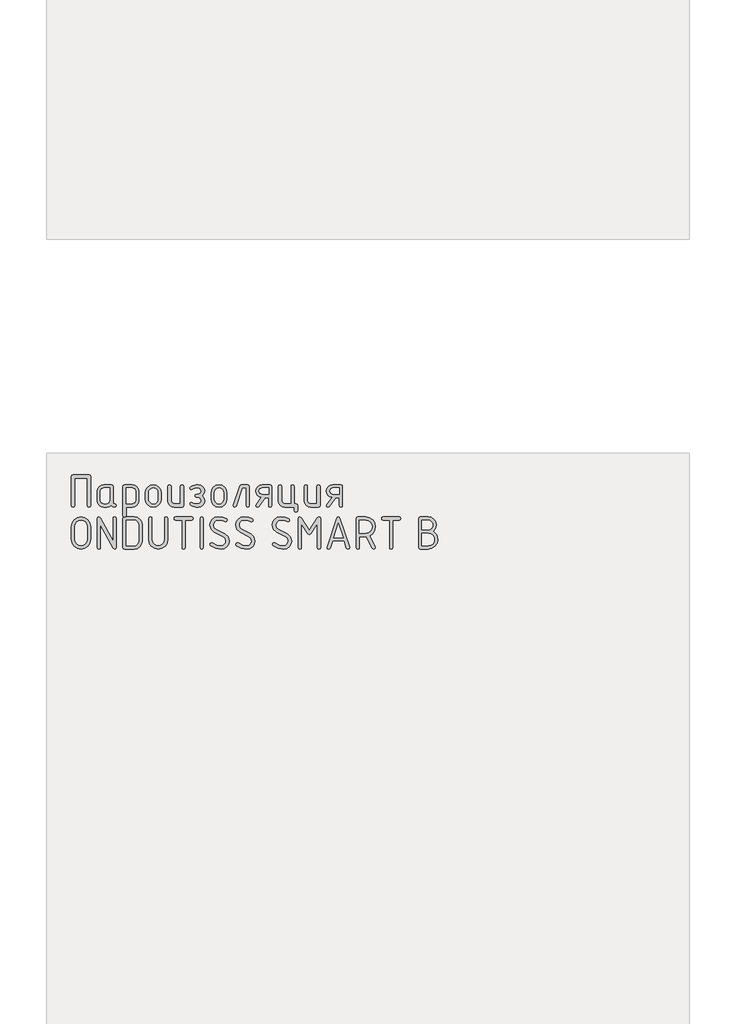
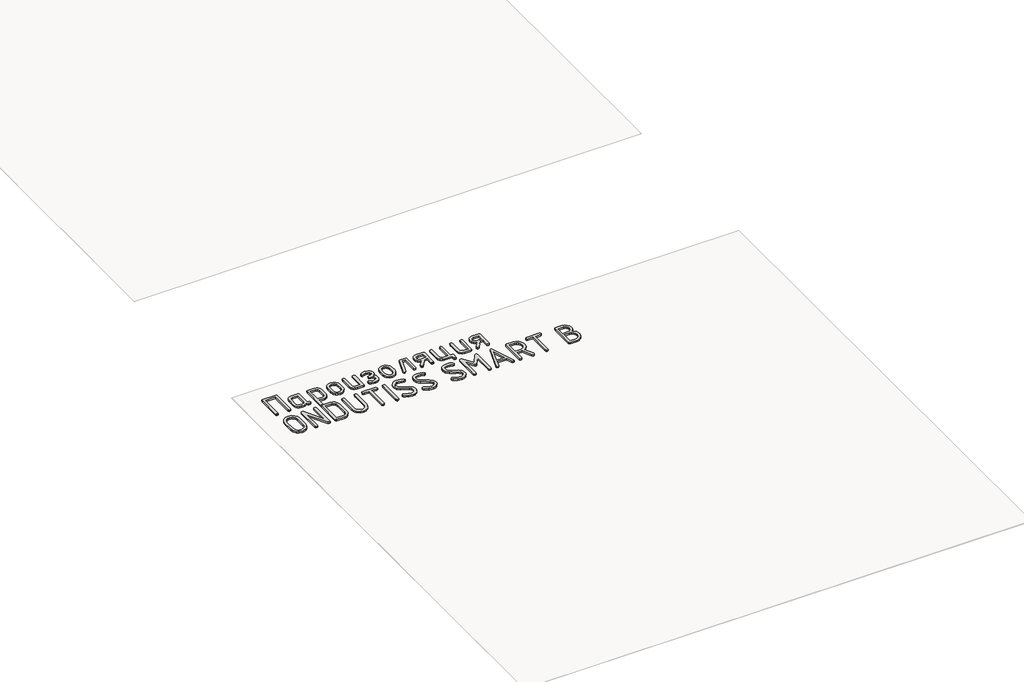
# One storey, part 11 of 42: 1 proxy.
"""IFC4 building model written with IfcOpenShell, lengths in millimetres."""

from ifc_helpers import new_model, si_unit, origin, origin_with_axes, place, context, project, spatial, polyline, outline, extrude, element, save

model = new_model("IFC4")

# Units and contexts
model_context = context("Model", 3, world=origin())
ifc_project = project(units=[si_unit("LENGTHUNIT", "METRE", prefix="MILLI")], contexts=[model_context])

# Site, building, storey
site = spatial("IfcSite", under=ifc_project)
building = spatial("IfcBuilding", under=site)
storey = spatial("IfcBuildingStorey", under=building, Name="Этаж 01", Elevation=0.0)

# Proxy
placement = place(None, origin())
element("IfcBuildingElementProxy", 1, Name="150 мм GOST Common", ObjectType="150 мм GOST Common", at=placement, inside=storey, context=model_context, shape_type="SweptSolid", body=[
    extrude(outline(polyline([(-17013.0545046, -34675.913887), (-16938.5048151, -34675.913887), (-16932.9016029, -34677.8016002), (-16931.0338655, -34683.4647398), (-16931.0338655, -34819.2202837), (-16932.9515424, -34824.8834233), (-16938.7045731, -34826.7711365), (-16944.4576038, -34824.8934112), (-16946.3752807, -34819.2602353), (-16946.3752807, -34691.2553022), (-17005.184039, -34691.2553022), (-17005.184039, -34819.2602353), (-17007.1017159, -34824.8934112), (-17012.8547466, -34826.7711365), (-17018.6077773, -34824.8834233), (-17020.5254542, -34819.2202837), (-17020.5254542, -34683.4647398), (-17018.6577168, -34677.8016002), (-17013.0545046, -34675.913887)])), origin_with_axes(), (0.0, 0.0, 1.0), 10.0),
    extrude(outline(polyline([(-16811.2190109, -34819.3001869), (-16813.0867483, -34824.9033991), (-16818.6899605, -34826.7711365), (-16828.1684781, -34824.7835443), (-16835.7492945, -34818.8207677), (-16844.8682477, -34824.7835443), (-16855.8449504, -34826.7711365), (-16870.7069464, -34826.7711365), (-16882.2030199, -34824.6037621), (-16891.7614407, -34818.1016388), (-16898.2036365, -34808.443339), (-16900.3510351, -34796.8074349), (-16900.3510351, -34751.9018342), (-16898.2036365, -34740.2659301), (-16891.7614407, -34730.6076303), (-16882.2030199, -34724.105507), (-16870.7069464, -34721.9381326), (-16833.6318596, -34721.9381326), (-16828.0586111, -34723.80587), (-16826.2008617, -34729.4090822), (-16826.2008617, -34804.3183361), (-16824.3281303, -34809.9215483), (-16818.7099363, -34811.7892857), (-16813.0917422, -34813.667011), (-16811.2190109, -34819.3001869)]), holes=[polyline([(-16841.5422768, -34737.2795478), (-16870.5071884, -34737.2795478), (-16880.7747501, -34741.6142966), (-16885.0096199, -34752.1015922), (-16885.0096199, -34796.6076769), (-16880.7347985, -34807.0550209), (-16870.5071884, -34811.4297213), (-16856.0447084, -34811.4297213), (-16845.7771467, -34807.0949725), (-16841.5422768, -34796.6076769), (-16841.5422768, -34737.2795478)])]), origin_with_axes(), (0.0, 0.0, 1.0), 10.0),
    extrude(outline(polyline([(-16780.1766161, -34729.4889854), (-16778.3188666, -34723.8258458), (-16772.7456181, -34721.9381326), (-16735.6705313, -34721.9381326), (-16724.1744578, -34724.105507), (-16714.6160371, -34730.6076303), (-16708.1738412, -34740.2659301), (-16706.0264426, -34751.9018342), (-16706.0264426, -34796.8074349), (-16708.1588594, -34808.3684298), (-16714.5561096, -34818.0417114), (-16724.0396212, -34824.5887802), (-16735.4308217, -34826.7711365), (-16764.8352009, -34826.7711365), (-16764.8352009, -34865.1246745), (-16766.7528778, -34870.8777052), (-16772.5059085, -34872.7953821), (-16778.2589392, -34870.9076689), (-16780.1766161, -34865.2445293), (-16780.1766161, -34729.4889854)]), holes=[polyline([(-16764.8352009, -34737.2795478), (-16764.8352009, -34811.4297213), (-16735.8702894, -34811.4297213), (-16725.6027276, -34807.0949725), (-16721.3678578, -34796.6076769), (-16721.3678578, -34752.1015922), (-16725.5428002, -34741.5543692), (-16735.8702894, -34737.2795478), (-16764.8352009, -34737.2795478)])]), origin_with_axes(), (0.0, 0.0, 1.0), 10.0),
    extrude(outline(polyline([(-16675.3436122, -34789.3364853), (-16675.3436122, -34759.3727838), (-16672.6318972, -34744.9802191), (-16664.4967522, -34732.8848716), (-16652.5162656, -34724.6748174), (-16638.2685255, -34721.9381326), (-16623.8709669, -34724.6448537), (-16611.9204439, -34732.7650168), (-16603.87519, -34744.8304006), (-16601.1934388, -34759.3727838), (-16601.1934388, -34789.3364853), (-16603.9051537, -34803.72905), (-16612.0402987, -34815.8243975), (-16624.0207854, -34824.0344517), (-16638.2685255, -34826.7711365), (-16652.5162656, -34824.0344517), (-16664.4967522, -34815.8243975), (-16672.6318972, -34803.72905), (-16675.3436122, -34789.3364853)]), holes=[polyline([(-16616.534854, -34788.8970177), (-16616.534854, -34758.8933645), (-16618.1279241, -34750.2638185), (-16622.9071345, -34742.9926269), (-16629.9336225, -34738.0486162), (-16638.2685255, -34736.4006126), (-16646.6034285, -34738.0486162), (-16653.6299165, -34742.9926269), (-16658.4091269, -34750.2638185), (-16660.002197, -34758.8933645), (-16660.002197, -34788.8970177), (-16658.4241087, -34797.606467), (-16653.6898439, -34804.8776585), (-16646.6783377, -34809.7917056), (-16638.2685255, -34811.4297213), (-16629.9336225, -34809.7817177), (-16622.9071345, -34804.8377069), (-16618.1279241, -34797.5565275), (-16616.534854, -34788.8970177)])]), origin_with_axes(), (0.0, 0.0, 1.0), 10.0),
    extrude(outline(polyline([(-16496.3604349, -34729.4090822), (-16496.3604349, -34819.3001869), (-16498.2181844, -34824.9033991), (-16503.7914329, -34826.7711365), (-16540.8665196, -34826.7711365), (-16552.3625931, -34824.6037621), (-16561.9210139, -34818.1016388), (-16568.3632097, -34808.443339), (-16570.5106084, -34796.8074349), (-16570.5106084, -34729.4090822), (-16568.5929315, -34723.80587), (-16562.8399008, -34721.9381326), (-16557.0868701, -34723.80587), (-16555.1691932, -34729.4090822), (-16555.1691932, -34796.5277737), (-16550.8943717, -34807.0150692), (-16540.6667616, -34811.4297213), (-16511.7018501, -34811.4297213), (-16511.7018501, -34729.4090822), (-16509.7841732, -34723.80587), (-16504.0311425, -34721.9381326), (-16498.2781118, -34723.80587), (-16496.3604349, -34729.4090822)])), origin_with_axes(), (0.0, 0.0, 1.0), 10.0),
    extrude(outline(polyline([(-16414.5395539, -34796.0483545), (-16418.5347141, -34784.7020995), (-16427.4039697, -34780.7468909), (-16437.0722574, -34780.7468909), (-16442.3858205, -34778.5495528), (-16444.543207, -34773.1161349), (-16442.3258931, -34767.6627412), (-16434.9148709, -34765.4054757), (-16432.6376296, -34765.4054757), (-16430.2405335, -34765.4054757), (-16418.5746657, -34761.3503881), (-16414.5395539, -34751.3425118), (-16418.8743027, -34741.3346354), (-16429.5613562, -34737.2795478), (-16437.0722574, -34737.2795478), (-16452.4536242, -34741.0949258), (-16461.3628315, -34744.9103038), (-16465.3579917, -34742.1736191), (-16467.0759106, -34736.9199834), (-16463.9996372, -34731.1769406), (-16454.7708171, -34726.013196), (-16437.0722574, -34721.9381326), (-16429.5613562, -34721.9381326), (-16417.8755126, -34724.0555675), (-16408.0673943, -34730.4078723), (-16401.4154526, -34739.8264625), (-16399.1981387, -34751.1427537), (-16401.8449323, -34764.4366493), (-16409.7853132, -34773.0761833), (-16401.8449323, -34782.2650518), (-16399.1981387, -34796.0883061), (-16401.4154526, -34807.9888895), (-16408.0673943, -34817.881905), (-16417.8755126, -34824.5488286), (-16429.5613562, -34826.7711365), (-16437.0722574, -34826.7711365), (-16454.8906719, -34822.8159279), (-16464.0296009, -34817.7420744), (-16467.0759106, -34811.7892857), (-16465.3579917, -34806.5156742), (-16461.2429767, -34803.7989653), (-16452.1140356, -34807.6143433), (-16437.0722574, -34811.4297213), (-16429.5613562, -34811.4297213), (-16418.9142543, -34806.935166), (-16414.5395539, -34796.0483545)])), origin_with_axes(), (0.0, 0.0, 1.0), 10.0),
    extrude(outline(polyline([(-16368.5153083, -34789.3364853), (-16368.5153083, -34759.3727838), (-16365.8035933, -34744.9802191), (-16357.6684483, -34732.8848716), (-16345.6879616, -34724.6748174), (-16331.4402215, -34721.9381326), (-16317.0426629, -34724.6448537), (-16305.09214, -34732.7650168), (-16297.0468861, -34744.8304006), (-16294.3651348, -34759.3727838), (-16294.3651348, -34789.3364853), (-16297.0768498, -34803.72905), (-16305.2119948, -34815.8243975), (-16317.1924814, -34824.0344517), (-16331.4402215, -34826.7711365), (-16345.6879616, -34824.0344517), (-16357.6684483, -34815.8243975), (-16365.8035933, -34803.72905), (-16368.5153083, -34789.3364853)]), holes=[polyline([(-16309.70655, -34788.8970177), (-16309.70655, -34758.8933645), (-16311.2996201, -34750.2638185), (-16316.0788305, -34742.9926269), (-16323.1053185, -34738.0486162), (-16331.4402215, -34736.4006126), (-16339.7751245, -34738.0486162), (-16346.8016125, -34742.9926269), (-16351.5808229, -34750.2638185), (-16353.1738931, -34758.8933645), (-16353.1738931, -34788.8970177), (-16351.5958048, -34797.606467), (-16346.8615399, -34804.8776585), (-16339.8500338, -34809.7917056), (-16331.4402215, -34811.4297213), (-16323.1053185, -34809.7817177), (-16316.0788305, -34804.8377069), (-16311.2996201, -34797.5565275), (-16309.70655, -34788.8970177)])]), origin_with_axes(), (0.0, 0.0, 1.0), 10.0),
    extrude(outline(polyline([(-16227.3662981, -34721.9381326), (-16197.2028386, -34721.9381326), (-16191.4498079, -34723.80587), (-16189.532131, -34729.4090822), (-16189.532131, -34819.3001869), (-16191.4498079, -34824.9033991), (-16197.2028386, -34826.7711365), (-16202.9558693, -34824.9033991), (-16204.8735462, -34819.3001869), (-16204.8735462, -34737.2795478), (-16222.0127834, -34737.2795478), (-16250.2985177, -34821.697283), (-16257.3699513, -34826.7711365), (-16263.0031272, -34824.8734354), (-16264.8808525, -34819.1803321), (-16264.5212881, -34816.9030908), (-16234.8771993, -34728.0507277), (-16231.9607324, -34723.4662814), (-16227.3662981, -34721.9381326)])), origin_with_axes(), (0.0, 0.0, 1.0), 10.0),
    extrude(outline(polyline([(-16133.3202268, -34781.6258261), (-16143.9024074, -34778.5046072), (-16152.47702, -34771.8576594), (-16158.1551415, -34762.663797), (-16160.0478486, -34751.9018342), (-16157.8704863, -34740.2659301), (-16151.3383994, -34730.6076303), (-16141.6601238, -34724.105507), (-16130.0441955, -34721.9381326), (-16092.3698347, -34721.9381326), (-16086.616804, -34723.80587), (-16084.6991271, -34729.4090822), (-16084.6991271, -34819.3001869), (-16086.616804, -34824.9033991), (-16092.3698347, -34826.7711365), (-16098.1228654, -34824.8934112), (-16100.0405423, -34819.2602353), (-16100.0405423, -34781.7856325), (-16115.2621027, -34781.7856325), (-16146.5042555, -34823.6948631), (-16152.5369474, -34826.7711365), (-16158.1701233, -34824.9033991), (-16160.0478486, -34819.3001869), (-16158.5696393, -34814.7457043), (-16133.3202268, -34781.6258261)]), holes=[polyline([(-16145.0260462, -34752.3013502), (-16140.5914184, -34762.8485732), (-16130.0441955, -34767.283201), (-16100.0405423, -34767.283201), (-16100.0405423, -34737.2795478), (-16130.0441955, -34737.2795478), (-16140.6513458, -34741.6542483), (-16145.0260462, -34752.3013502)])]), origin_with_axes(), (0.0, 0.0, 1.0), 10.0),
    extrude(outline(polyline([(-15972.1954157, -34811.4297213), (-15966.442385, -34813.3473982), (-15964.5247081, -34819.1004289), (-15964.5247081, -34842.1125517), (-15966.442385, -34847.8655824), (-15972.1954157, -34849.7832593), (-15977.9484464, -34847.8655824), (-15979.8661233, -34842.1125517), (-15979.8661233, -34826.7711365), (-16024.372208, -34826.7711365), (-16035.8682815, -34824.5887802), (-16045.4267023, -34818.0417114), (-16051.8688981, -34808.3684298), (-16054.0162967, -34796.8074349), (-16054.0162967, -34729.4090822), (-16052.0986198, -34723.80587), (-16046.3455891, -34721.9381326), (-16040.5925584, -34723.80587), (-16038.6748815, -34729.4090822), (-16038.6748815, -34796.5277737), (-16034.4000601, -34807.0150692), (-16024.17245, -34811.4297213), (-15995.2075385, -34811.4297213), (-15995.2075385, -34729.4090822), (-15993.2898616, -34723.80587), (-15987.5368309, -34721.9381326), (-15981.7838002, -34723.80587), (-15979.8661233, -34729.4090822), (-15979.8661233, -34811.4297213), (-15972.1954157, -34811.4297213)])), origin_with_axes(), (0.0, 0.0, 1.0), 10.0),
    extrude(outline(polyline([(-15859.6917042, -34729.4090822), (-15859.6917042, -34819.3001869), (-15861.5494537, -34824.9033991), (-15867.1227022, -34826.7711365), (-15904.1977889, -34826.7711365), (-15915.6938624, -34824.6037621), (-15925.2522832, -34818.1016388), (-15931.6944791, -34808.443339), (-15933.8418777, -34796.8074349), (-15933.8418777, -34729.4090822), (-15931.9242008, -34723.80587), (-15926.1711701, -34721.9381326), (-15920.4181394, -34723.80587), (-15918.5004625, -34729.4090822), (-15918.5004625, -34796.5277737), (-15914.225641, -34807.0150692), (-15903.9980309, -34811.4297213), (-15875.0331194, -34811.4297213), (-15875.0331194, -34729.4090822), (-15873.1154425, -34723.80587), (-15867.3624118, -34721.9381326), (-15861.6093811, -34723.80587), (-15859.6917042, -34729.4090822)])), origin_with_axes(), (0.0, 0.0, 1.0), 10.0),
    extrude(outline(polyline([(-15803.4798001, -34781.6258261), (-15814.0619807, -34778.5046072), (-15822.6365933, -34771.8576594), (-15828.3147147, -34762.663797), (-15830.2074219, -34751.9018342), (-15828.0300596, -34740.2659301), (-15821.4979726, -34730.6076303), (-15811.819697, -34724.105507), (-15800.2037687, -34721.9381326), (-15762.529408, -34721.9381326), (-15756.7763773, -34723.80587), (-15754.8587004, -34729.4090822), (-15754.8587004, -34819.3001869), (-15756.7763773, -34824.9033991), (-15762.529408, -34826.7711365), (-15768.2824387, -34824.8934112), (-15770.2001156, -34819.2602353), (-15770.2001156, -34781.7856325), (-15785.4216759, -34781.7856325), (-15816.6638288, -34823.6948631), (-15822.6965207, -34826.7711365), (-15828.3296966, -34824.9033991), (-15830.2074219, -34819.3001869), (-15828.7292126, -34814.7457043), (-15803.4798001, -34781.6258261)]), holes=[polyline([(-15815.1856195, -34752.3013502), (-15810.7509917, -34762.8485732), (-15800.2037687, -34767.283201), (-15770.2001156, -34767.283201), (-15770.2001156, -34737.2795478), (-15800.2037687, -34737.2795478), (-15810.8109191, -34741.6542483), (-15815.1856195, -34752.3013502)])]), origin_with_axes(), (0.0, 0.0, 1.0), 10.0),
    extrude(outline(polyline([(-16931.0338655, -34977.5302169), (-16934.3098969, -34994.8991759), (-16944.137991, -35009.5314502), (-16958.6004709, -35019.4793991), (-16975.7796598, -35022.7953821), (-16992.9588487, -35019.4793991), (-17007.4213287, -35009.5314502), (-17017.2494228, -34994.8991759), (-17020.5254542, -34977.5302169), (-17020.5254542, -34917.2032978), (-17017.2494228, -34899.8343388), (-17007.4213287, -34885.2020645), (-16992.9588487, -34875.2541156), (-16975.7796598, -34871.9381326), (-16958.5255617, -34875.2391337), (-16944.0780636, -34885.1421371), (-16934.294915, -34899.7594295), (-16931.0338655, -34917.2032978), (-16931.0338655, -34977.5302169)]), holes=[polyline([(-16946.3752807, -34977.4103621), (-16946.3752807, -34917.3231526), (-16948.5076975, -34905.6772606), (-16954.9049477, -34895.9889971), (-16964.3884593, -34889.4569101), (-16975.7796598, -34887.2795478), (-16987.1708604, -34889.4569101), (-16996.6543719, -34895.9889971), (-17003.0516222, -34905.6772606), (-17005.184039, -34917.3231526), (-17005.184039, -34977.4103621), (-17003.0516222, -34989.0562541), (-16996.6543719, -34998.7445176), (-16987.1708604, -35005.2766046), (-16975.7796598, -35007.4539669), (-16964.3884593, -35005.2766046), (-16954.9049477, -34998.7445176), (-16948.5076975, -34989.0562541), (-16946.3752807, -34977.4103621)])]), origin_with_axes(), (0.0, 0.0, 1.0), 10.0),
    extrude(outline(polyline([(-16826.2008617, -34986.1198114), (-16826.2008617, -34879.4889854), (-16824.2831848, -34873.8258458), (-16818.5301541, -34871.9381326), (-16812.7771234, -34873.8258458), (-16810.8594465, -34879.4889854), (-16810.8594465, -35015.2445293), (-16812.8969782, -35020.9076689), (-16819.0095733, -35022.7953821), (-16826.2008617, -35019.0399315), (-16885.0096199, -34908.4938485), (-16885.0096199, -35015.2445293), (-16886.9272968, -35020.9076689), (-16892.6803275, -35022.7953821), (-16898.4333582, -35020.9076689), (-16900.3510351, -35015.2445293), (-16900.3510351, -34879.4889854), (-16898.353455, -34873.8258458), (-16892.3607147, -34871.9381326), (-16885.0096199, -34876.4127121), (-16826.2008617, -34986.1198114)])), origin_with_axes(), (0.0, 0.0, 1.0), 10.0),
    extrude(outline(polyline([(-16780.1766161, -34879.4889854), (-16778.3088787, -34873.8258458), (-16772.7056665, -34871.9381326), (-16727.9598721, -34871.9381326), (-16713.4874043, -34874.6648295), (-16701.47196, -34882.84492), (-16693.3817605, -34895.0001949), (-16690.6850274, -34909.652445), (-16690.6850274, -34985.0810697), (-16693.4117242, -34999.5835013), (-16701.5918148, -35011.7687399), (-16713.6372228, -35020.0387215), (-16727.9598721, -35022.7953821), (-16772.7056665, -35022.7953821), (-16778.3088787, -35020.9076689), (-16780.1766161, -35015.2445293), (-16780.1766161, -34879.4889854)]), holes=[polyline([(-16764.8352009, -34887.2795478), (-16764.8352009, -35007.4539669), (-16728.079727, -35007.4539669), (-16719.6049934, -35005.8059633), (-16712.4786263, -35000.8619525), (-16707.6394885, -34993.580773), (-16706.0264426, -34984.9212633), (-16706.0264426, -34909.8122514), (-16707.6394885, -34901.1527416), (-16712.4786263, -34893.8715622), (-16719.6049934, -34888.9275514), (-16728.079727, -34887.2795478), (-16764.8352009, -34887.2795478)])]), origin_with_axes(), (0.0, 0.0, 1.0), 10.0),
    extrude(outline(polyline([(-16570.5106084, -34879.4889854), (-16570.5106084, -34977.5302169), (-16573.7866397, -34994.8991759), (-16583.6147338, -35009.5314502), (-16598.0772138, -35019.4793991), (-16615.2564027, -35022.7953821), (-16632.4355916, -35019.4793991), (-16646.8980715, -35009.5314502), (-16656.7261656, -34994.8991759), (-16660.002197, -34977.5302169), (-16660.002197, -34879.4889854), (-16658.0845201, -34873.8258458), (-16652.3314894, -34871.9381326), (-16646.5784587, -34873.8158579), (-16644.6607818, -34879.4490338), (-16644.6607818, -34977.3304589), (-16642.5283651, -34989.0113086), (-16636.1311148, -34998.7245418), (-16626.6476032, -35005.2716106), (-16615.2564027, -35007.4539669), (-16603.8652021, -35005.2716106), (-16594.3816906, -34998.7245418), (-16587.9844403, -34989.0113086), (-16585.8520236, -34977.3304589), (-16585.8520236, -34879.4490338), (-16583.9343467, -34873.8158579), (-16578.181316, -34871.9381326), (-16572.4282853, -34873.8258458), (-16570.5106084, -34879.4889854)])), origin_with_axes(), (0.0, 0.0, 1.0), 10.0),
    extrude(outline(polyline([(-16541.5456969, -34879.6088402), (-16539.6679716, -34873.8558095), (-16534.0347957, -34871.9381326), (-16458.6860741, -34871.9381326), (-16453.082862, -34873.8558095), (-16451.2151246, -34879.6088402), (-16453.082862, -34885.3618709), (-16458.6860741, -34887.2795478), (-16488.6897273, -34887.2795478), (-16488.6897273, -35015.2844809), (-16490.6074042, -35020.9176568), (-16496.3604349, -35022.7953821), (-16502.1134656, -35020.9176568), (-16504.0311425, -35015.2844809), (-16504.0311425, -34887.2795478), (-16534.0347957, -34887.2795478), (-16539.6679716, -34885.3618709), (-16541.5456969, -34879.6088402)])), origin_with_axes(), (0.0, 0.0, 1.0), 10.0),
    extrude(outline(polyline([(-16411.9826513, -35022.7953821), (-16417.735682, -35020.9076689), (-16419.6533589, -35015.2445293), (-16419.6533589, -34879.4889854), (-16417.735682, -34873.8258458), (-16411.9826513, -34871.9381326), (-16406.2296206, -34873.8258458), (-16404.3119437, -34879.4889854), (-16404.3119437, -35015.2445293), (-16406.2296206, -35020.9076689), (-16411.9826513, -35022.7953821)])), origin_with_axes(), (0.0, 0.0, 1.0), 10.0),
    extrude(outline(polyline([(-16284.1375247, -34985.1609729), (-16286.8792034, -34999.5535376), (-16295.1042394, -35011.7287883), (-16307.1646293, -35020.0287336), (-16321.4123694, -35022.7953821), (-16347.4308503, -35018.6104518), (-16370.353082, -35006.0556608), (-16373.6291133, -34999.9430657), (-16371.4317752, -34994.6494784), (-16366.1981153, -34992.4321645), (-16361.9632455, -34993.790519), (-16341.5080253, -35004.2578387), (-16321.7319822, -35007.4539669), (-16313.1823394, -35005.8009693), (-16305.991051, -35000.8419767), (-16301.1069677, -34993.5458154), (-16299.4789399, -34984.8813117), (-16302.5652011, -34972.9158069), (-16311.8239849, -34964.665801), (-16353.5334575, -34943.0120327), (-16368.6051994, -34929.3985243), (-16373.6291133, -34909.5725418), (-16370.9024165, -34895.1799771), (-16362.722326, -34883.0047264), (-16350.7268574, -34874.7047811), (-16336.5540266, -34871.9381326), (-16313.3721095, -34874.0256038), (-16296.4026665, -34880.2880175), (-16291.9680387, -34887.2795478), (-16294.1853526, -34892.5731351), (-16299.4789399, -34894.790449), (-16302.5951648, -34893.991417), (-16319.4747167, -34888.9575151), (-16336.2344138, -34887.2795478), (-16344.7091474, -34888.9325454), (-16351.8355144, -34893.891538), (-16356.6746522, -34901.1876993), (-16358.2876981, -34909.852203), (-16355.2513764, -34921.7877441), (-16346.1424111, -34929.9478588), (-16304.4728901, -34951.6016272), (-16289.221366, -34965.3050267), (-16284.1375247, -34985.1609729)])), origin_with_axes(), (0.0, 0.0, 1.0), 10.0),
    extrude(outline(polyline([(-16163.9631056, -34985.1609729), (-16166.7047843, -34999.5535376), (-16174.9298204, -35011.7287883), (-16186.9902103, -35020.0287336), (-16201.2379504, -35022.7953821), (-16227.2564312, -35018.6104518), (-16250.1786629, -35006.0556608), (-16253.4546943, -34999.9430657), (-16251.2573562, -34994.6494784), (-16246.0236963, -34992.4321645), (-16241.7888265, -34993.790519), (-16221.3336062, -35004.2578387), (-16201.5575632, -35007.4539669), (-16193.0079203, -35005.8009693), (-16185.816632, -35000.8419767), (-16180.9325486, -34993.5458154), (-16179.3045208, -34984.8813117), (-16182.3907821, -34972.9158069), (-16191.6495659, -34964.665801), (-16233.3590384, -34943.0120327), (-16248.4307803, -34929.3985243), (-16253.4546943, -34909.5725418), (-16250.7279974, -34895.1799771), (-16242.5479069, -34883.0047264), (-16230.5524384, -34874.7047811), (-16216.3796075, -34871.9381326), (-16193.1976904, -34874.0256038), (-16176.2282475, -34880.2880175), (-16171.7936196, -34887.2795478), (-16174.0109335, -34892.5731351), (-16179.3045208, -34894.790449), (-16182.4207458, -34893.991417), (-16199.3002977, -34888.9575151), (-16216.0599947, -34887.2795478), (-16224.5347283, -34888.9325454), (-16231.6610953, -34893.891538), (-16236.5002331, -34901.1876993), (-16238.1132791, -34909.852203), (-16235.0769573, -34921.7877441), (-16225.967992, -34929.9478588), (-16184.2984711, -34951.6016272), (-16169.046947, -34965.3050267), (-16163.9631056, -34985.1609729)])), origin_with_axes(), (0.0, 0.0, 1.0), 10.0),
    extrude(outline(polyline([(-15992.6506359, -34985.1609729), (-15995.3923146, -34999.5535376), (-16003.6173507, -35011.7287883), (-16015.6777406, -35020.0287336), (-16029.9254807, -35022.7953821), (-16055.9439615, -35018.6104518), (-16078.8661932, -35006.0556608), (-16082.1422246, -34999.9430657), (-16079.9448865, -34994.6494784), (-16074.7112266, -34992.4321645), (-16070.4763568, -34993.790519), (-16050.0211365, -35004.2578387), (-16030.2450935, -35007.4539669), (-16021.6954506, -35005.8009693), (-16014.5041623, -35000.8419767), (-16009.6200789, -34993.5458154), (-16007.9920511, -34984.8813117), (-16011.0783124, -34972.9158069), (-16020.3370962, -34964.665801), (-16062.0465687, -34943.0120327), (-16077.1183106, -34929.3985243), (-16082.1422246, -34909.5725418), (-16079.4155277, -34895.1799771), (-16071.2354372, -34883.0047264), (-16059.2399687, -34874.7047811), (-16045.0671378, -34871.9381326), (-16021.8852207, -34874.0256038), (-16004.9157778, -34880.2880175), (-16000.4811499, -34887.2795478), (-16002.6984638, -34892.5731351), (-16007.9920511, -34894.790449), (-16011.1082761, -34893.991417), (-16027.987828, -34888.9575151), (-16044.747525, -34887.2795478), (-16053.2222586, -34888.9325454), (-16060.3486256, -34893.891538), (-16065.1877634, -34901.1876993), (-16066.8008094, -34909.852203), (-16063.7644876, -34921.7877441), (-16054.6555223, -34929.9478588), (-16012.9860014, -34951.6016272), (-15997.7344773, -34965.3050267), (-15992.6506359, -34985.1609729)])), origin_with_axes(), (0.0, 0.0, 1.0), 10.0),
    extrude(outline(polyline([(-15865.4447349, -34871.9381326), (-15859.212285, -34873.8258458), (-15857.1348017, -34879.4889854), (-15857.1348017, -35015.2445293), (-15859.0524786, -35020.9076689), (-15864.8055093, -35022.7953821), (-15870.55854, -35020.9076689), (-15872.4762169, -35015.2445293), (-15872.4762169, -34904.2989303), (-15902.679628, -34950.1234179), (-15909.5513036, -34954.6379489), (-15916.5028824, -34950.1234179), (-15946.6263903, -34904.2989303), (-15946.6263903, -35015.2445293), (-15948.5440672, -35020.9076689), (-15954.2970979, -35022.7953821), (-15960.0501286, -35020.9076689), (-15961.9678055, -35015.2445293), (-15961.9678055, -34879.4889854), (-15959.9302738, -34873.8258458), (-15953.8176787, -34871.9381326), (-15946.6263903, -34875.6935832), (-15909.6711584, -34933.6633578), (-15872.4762169, -34875.2541156), (-15865.4447349, -34871.9381326)])), origin_with_axes(), (0.0, 0.0, 1.0), 10.0),
    extrude(outline(polyline([(-15721.7787738, -35015.2445293), (-15723.6564991, -35020.9076689), (-15729.289675, -35022.7953821), (-15733.814194, -35021.4869671), (-15736.4410118, -35017.5617222), (-15747.2279444, -34984.4418441), (-15801.3224136, -34984.4418441), (-15812.1492977, -35017.5617222), (-15814.7761156, -35021.4869671), (-15819.3006345, -35022.7953821), (-15824.9338104, -35020.9076689), (-15826.8115357, -35015.2445293), (-15826.4519713, -35012.8474332), (-15781.7860802, -34878.0107761), (-15778.889589, -34873.4562935), (-15774.275179, -34871.9381326), (-15769.7206963, -34873.3963661), (-15766.9240842, -34877.7710665), (-15722.1383383, -35012.8474332), (-15721.7787738, -35015.2445293)]), holes=[polyline([(-15774.275179, -34902.9405758), (-15796.3284633, -34969.1004289), (-15752.2618462, -34969.1004289), (-15774.275179, -34902.9405758)])]), origin_with_axes(), (0.0, 0.0, 1.0), 10.0),
    extrude(outline(polyline([(-15627.6128477, -34959.2723348), (-15601.4445484, -35011.8086915), (-15601.4445484, -35015.2445293), (-15603.8815961, -35020.5181407), (-15609.4748204, -35022.7953821), (-15616.7859636, -35018.6803671), (-15643.8731498, -34963.866769), (-15646.5099555, -34963.9866238), (-15675.5947218, -34963.9866238), (-15675.5947218, -35015.4442873), (-15677.5123987, -35020.9576084), (-15683.2654294, -35022.7953821), (-15689.0184601, -35020.9076689), (-15690.936137, -35015.2445293), (-15690.936137, -34879.4889854), (-15689.0683996, -34873.8258458), (-15683.4651874, -34871.9381326), (-15646.1903427, -34871.9381326), (-15628.9362446, -34875.2391337), (-15614.4887465, -34885.1421371), (-15604.7055979, -34899.7594295), (-15601.4445484, -34917.2032978), (-15603.0800671, -34931.533438), (-15607.9866232, -34943.3216576), (-15616.1642168, -34952.5679565), (-15627.6128477, -34959.2723348)]), holes=[polyline([(-15675.5947218, -34887.2795478), (-15675.5947218, -34948.6452086), (-15646.1903427, -34948.6452086), (-15634.7991422, -34946.4229007), (-15625.3156306, -34939.7559772), (-15618.9183803, -34929.8629617), (-15616.7859636, -34917.9623782), (-15618.9183803, -34906.0617947), (-15625.3156306, -34896.1687793), (-15634.7991422, -34889.5018557), (-15646.1903427, -34887.2795478), (-15675.5947218, -34887.2795478)])]), origin_with_axes(), (0.0, 0.0, 1.0), 10.0),
    extrude(outline(polyline([(-15572.4796369, -34879.6088402), (-15570.6019116, -34873.8558095), (-15564.9687357, -34871.9381326), (-15489.6200142, -34871.9381326), (-15484.016802, -34873.8558095), (-15482.1490646, -34879.6088402), (-15484.016802, -34885.3618709), (-15489.6200142, -34887.2795478), (-15519.6236673, -34887.2795478), (-15519.6236673, -35015.2844809), (-15521.5413442, -35020.9176568), (-15527.2943749, -35022.7953821), (-15533.0474056, -35020.9176568), (-15534.9650825, -35015.2844809), (-15534.9650825, -34887.2795478), (-15564.9687357, -34887.2795478), (-15570.6019116, -34885.3618709), (-15572.4796369, -34879.6088402)])), origin_with_axes(), (0.0, 0.0, 1.0), 10.0),
    extrude(outline(polyline([(-15331.811186, -34940.175469), (-15315.4210412, -34955.9863155), (-15309.9576596, -34978.1694425), (-15313.233691, -34995.2837101), (-15323.0617851, -35009.7112324), (-15337.5242651, -35019.5243446), (-15354.703454, -35022.7953821), (-15391.9782987, -35022.7953821), (-15397.5815109, -35020.9076689), (-15399.4492483, -35015.2445293), (-15399.4492483, -34879.4889854), (-15397.5914988, -34873.8258458), (-15392.0182503, -34871.9381326), (-15354.8233088, -34871.9381326), (-15340.3857986, -34874.714769), (-15328.395324, -34883.044678), (-15320.3201064, -34895.4096988), (-15317.6283672, -34910.2916706), (-15321.1740719, -34926.9514887), (-15331.811186, -34940.175469)]), holes=[polyline([(-15384.1078331, -34887.2795478), (-15384.1078331, -34933.3037934), (-15354.903212, -34933.3037934), (-15346.46843, -34931.6208322), (-15339.3820146, -34926.5719485), (-15334.5728405, -34919.1359565), (-15332.9697824, -34910.2916706), (-15334.5728405, -34901.4473847), (-15339.3820146, -34894.0113928), (-15346.46843, -34888.9625091), (-15354.903212, -34887.2795478), (-15384.1078331, -34887.2795478)]), polyline([(-15384.1078331, -34948.6452086), (-15384.1078331, -35007.4539669), (-15354.703454, -35007.4539669), (-15343.3122534, -35005.3215501), (-15333.8287419, -34998.9242998), (-15327.4314916, -34989.4407883), (-15325.2990748, -34978.0495877), (-15327.4314916, -34966.6583872), (-15333.8287419, -34957.1748757), (-15343.3122534, -34950.7776254), (-15354.703454, -34948.6452086), (-15384.1078331, -34948.6452086)])]), origin_with_axes(), (0.0, 0.0, 1.0), 10.0),
])

save(model, "model.ifc")
